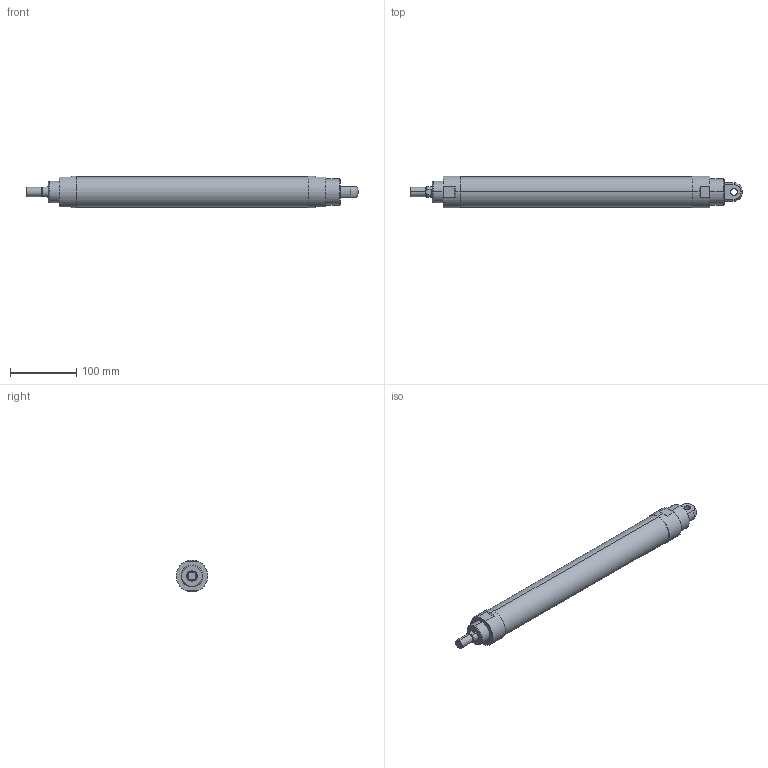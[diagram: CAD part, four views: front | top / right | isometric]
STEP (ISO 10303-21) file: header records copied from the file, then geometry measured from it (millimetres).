
FILE_DESCRIPTION (( 'STEP AP203' ), '1' );
FILE_NAME ('J#2-40-300-C.STEP', '2016-03-08T08:09:32', ( '' ), ( '' ), 'SwSTEP 2.0', 'SolidWorks 2014', '' );
FILE_SCHEMA (( 'CONFIG_CONTROL_DESIGN' ));
Length unit declared in the file: millimetre
Products named in the file (1): J#2-40-300-C
Bounding box: 502 x 48 x 48 mm (x, y, z)
Volume: 729359 mm3; surface area: 71599.1 mm2
Topology: 1 solids, 1 shells, 59 faces, 138 edges, 85 vertices
Faces by surface type: cylinder 22, plane 20, cone 15, torus 2
Entity records: 1988 total; most frequent: CARTESIAN_POINT 566, DIRECTION 293, ORIENTED_EDGE 268, EDGE_CURVE 134, AXIS2_PLACEMENT_3D 118, VERTEX_POINT 85, EDGE_LOOP 69, FACE_OUTER_BOUND 59
